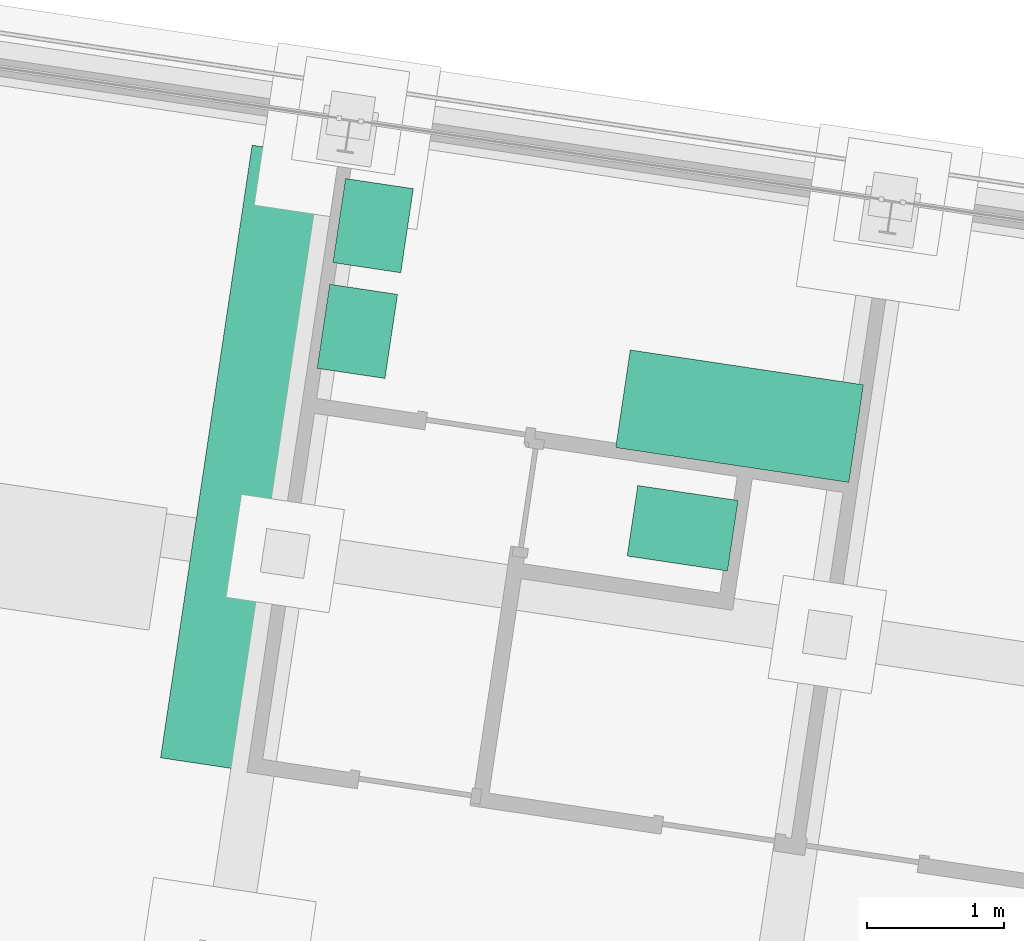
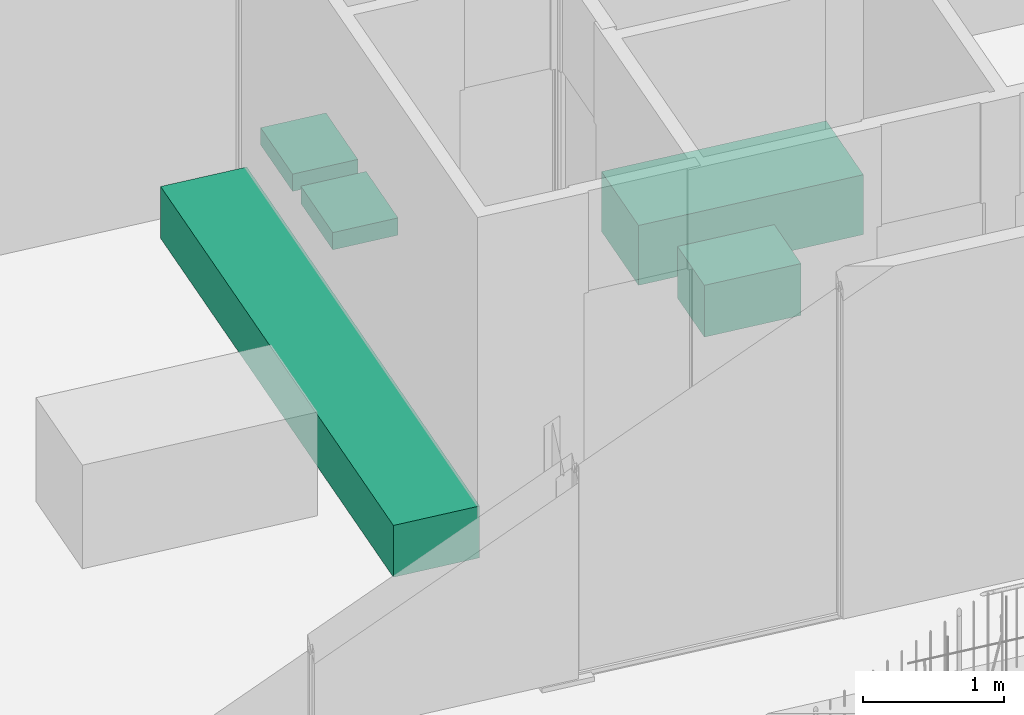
# One storey, part 140 of 142: 5 sanitary terminals.
"""IFC4 building model written with IfcOpenShell, lengths in metres."""

import ifcopenshell
import ifcopenshell.guid

model = None  # the IFC model being written
_history = None  # IfcOwnerHistory: only IFC2X3 demands one
_inside = {}  # id of a spatial element -> (the spatial element, [elements in it])
_under = {}  # id of a project, library or spatial element -> (it, [spatial elements below it])
_declared = {}  # id of a project -> (the project, [libraries it declares])
_typed = {}  # id of a type object -> (the type object, [elements of that type])
_made_of = {}  # id of a material, layer set ... -> (it, [elements and type objects made of it])


def new_model(schema):
    """Start an empty IFC model of exactly this schema.

    Asked for "IFC4X3", IfcOpenShell would pick the latest addendum, in which some entities
    have other attributes; the version numbers below select the first issue.
    IFC2X3 requires an IfcOwnerHistory on every rooted entity: one is made here for all.
    """
    global model, _history
    if schema == "IFC4X3":
        model = ifcopenshell.file(schema_version=(4, 3, 0, 0))
    else:
        model = ifcopenshell.file(schema=schema)
    _inside.clear()
    _under.clear()
    _declared.clear()
    _typed.clear()
    _made_of.clear()
    _history = None
    if model.schema == "IFC2X3":
        org = make("IfcOrganization", Name="unknown")
        user = make(
            "IfcPersonAndOrganization",
            ThePerson=make("IfcPerson", FamilyName="unknown"),
            TheOrganization=org,
        )
        app = make(
            "IfcApplication",
            ApplicationDeveloper=org,
            Version="unknown",
            ApplicationFullName="unknown",
            ApplicationIdentifier="unknown",
        )
        _history = make(
            "IfcOwnerHistory",
            OwningUser=user,
            OwningApplication=app,
            ChangeAction="ADDED",
            CreationDate=0,
        )
    return model


def make(cls, **values):
    """One entity of the class cls with the attributes given. An attribute that is None is left unset."""
    return model.create_entity(
        cls, **{name: value for name, value in values.items() if value is not None}
    )


def rooted(cls, **values):
    """An entity with a GlobalId (a new one), such as an element, a storey or a relation."""
    return make(cls, GlobalId=ifcopenshell.guid.new(), OwnerHistory=_history, **values)


def si_unit(unit_type, name, prefix=None):
    """IfcSIUnit, for example si_unit("LENGTHUNIT", "METRE", prefix="MILLI")."""
    return make("IfcSIUnit", UnitType=unit_type, Prefix=prefix, Name=name)


def assignment(units):
    """IfcUnitAssignment: the units of a project."""
    return None if units is None else make("IfcUnitAssignment", Units=units)


def point(xyz):
    """IfcCartesianPoint."""
    return None if xyz is None else make("IfcCartesianPoint", Coordinates=xyz)


def direction(xyz):
    """IfcDirection."""
    return None if xyz is None else make("IfcDirection", DirectionRatios=xyz)


def frame(location, z_axis=None, x_axis=None):
    """IfcAxis2Placement3D, a coordinate frame: its origin and axes. An axis left out is left unset."""
    return make(
        "IfcAxis2Placement3D",
        Location=point(location),
        Axis=direction(z_axis),
        RefDirection=direction(x_axis),
    )


def origin_with_axes():
    """The frame at (0, 0, 0) with the z axis (0, 0, 1) and the x axis (1, 0, 0) written out."""
    return frame((0.0, 0.0, 0.0), z_axis=(0.0, 0.0, 1.0), x_axis=(1.0, 0.0, 0.0))


def place(relative_to, where):
    """IfcLocalPlacement: puts the frame where relative to a parent placement (None: the world)."""
    return make(
        "IfcLocalPlacement", PlacementRelTo=relative_to, RelativePlacement=where
    )


def context(
    kind, dimensions, precision=None, world=None, true_north=None, identifier=None
):
    """IfcGeometricRepresentationContext, for example the 3D "Model" context."""
    return make(
        "IfcGeometricRepresentationContext",
        ContextIdentifier=identifier,
        ContextType=kind,
        CoordinateSpaceDimension=dimensions,
        Precision=precision,
        WorldCoordinateSystem=world,
        TrueNorth=true_north,
    )


def subcontext(parent, identifier, kind, view, scale=None):
    """IfcGeometricRepresentationSubContext, for example "Body" below "Model"."""
    return make(
        "IfcGeometricRepresentationSubContext",
        ContextIdentifier=identifier,
        ContextType=kind,
        ParentContext=parent,
        TargetScale=scale,
        TargetView=view,
    )


def project(units=None, contexts=None):
    """IfcProject with its units and contexts."""
    return rooted(
        "IfcProject",
        Name="project",
        RepresentationContexts=contexts,
        UnitsInContext=assignment(units),
    )


def spatial(cls, under=None, at=None, **own):
    """A site, building, storey or space (cls), placed at a placement, below another one or the project."""
    s = rooted(cls, ObjectPlacement=at, **own)
    if under is not None:
        _under.setdefault(under.id(), (under, []))[1].append(s)
    return s


def polyline(points):
    """IfcPolyline through the points."""
    return make("IfcPolyline", Points=[point(p) for p in points])


def outline(outer, holes=None, kind="AREA"):
    """IfcArbitraryClosedProfileDef: a profile drawn as a closed curve; with holes, ...WithVoids."""
    if holes is None:
        return make("IfcArbitraryClosedProfileDef", ProfileType=kind, OuterCurve=outer)
    return make(
        "IfcArbitraryProfileDefWithVoids",
        ProfileType=kind,
        OuterCurve=outer,
        InnerCurves=holes,
    )


def extrude(swept, where, along, depth):
    """IfcExtrudedAreaSolid: the profile swept, set in the frame where, extruded along a direction by depth."""
    return make(
        "IfcExtrudedAreaSolid",
        SweptArea=swept,
        Position=where,
        ExtrudedDirection=direction(along),
        Depth=depth,
    )


def shape(context_of_items, identifier, shape_type, items):
    """IfcShapeRepresentation: the items that make up one representation, for example the "Body"."""
    return make(
        "IfcShapeRepresentation",
        ContextOfItems=context_of_items,
        RepresentationIdentifier=identifier,
        RepresentationType=shape_type,
        Items=items,
    )


def material(Name=None, Category=None):
    """IfcMaterial."""
    return make("IfcMaterial", Name=Name, Category=Category)


def made_of(thing, what):
    """Note that an element or type object is made of a material, layer set ...; save() writes the relation."""
    if what is not None:
        _made_of.setdefault(what.id(), (what, []))[1].append(thing)
    return thing


def element(
    cls,
    number,
    at=None,
    inside=None,
    cuts=None,
    type_object=None,
    material=None,
    context=None,
    identifier="Body",
    shape_type=None,
    held_by="IfcProductDefinitionShape",
    body=None,
    shapes=None,
    **own,
):
    """One element of the class cls, such as IfcWall. Its Tag is "e" and its number.

    at: its placement. inside: the storey or other place that contains it. cuts: it is an
    opening in that element (IfcRelVoidsElement). A single representation is given by context,
    identifier, shape_type and body (its items); several are given by shapes. held_by: the class
    of the entity that holds the representations. save() writes the other relations.
    """
    e = rooted(cls, Tag="e%d" % number, ObjectPlacement=at, **own)
    if body is not None:
        shapes = [shape(context, identifier, shape_type, body)]
    if shapes is not None:
        e.Representation = make(held_by, Representations=shapes)
    if inside is not None:
        _inside.setdefault(inside.id(), (inside, []))[1].append(e)
    if cuts is not None:
        rooted(
            "IfcRelVoidsElement", RelatingBuildingElement=cuts, RelatedOpeningElement=e
        )
    if type_object is not None:
        _typed.setdefault(type_object.id(), (type_object, []))[1].append(e)
    return made_of(e, material)


def aggregate(whole, parts):
    """IfcRelAggregates: a whole, such as a stair, and the parts it consists of."""
    return rooted("IfcRelAggregates", RelatingObject=whole, RelatedObjects=parts)


def save(model, path):
    """Write the relations noted so far, then the file.

    IfcRelAggregates (storeys below a building ...), IfcRelContainedInSpatialStructure (elements
    in a storey), IfcRelDefinesByType, IfcRelAssociatesMaterial and IfcRelDeclares: one each for
    every whole, place, type object, material and project.
    """
    for whole, parts in _under.values():
        aggregate(whole, parts)
    for where, things in _inside.values():
        rooted(
            "IfcRelContainedInSpatialStructure",
            RelatedElements=things,
            RelatingStructure=where,
        )
    for kind, things in _typed.values():
        rooted("IfcRelDefinesByType", RelatedObjects=things, RelatingType=kind)
    for what, things in _made_of.values():
        rooted("IfcRelAssociatesMaterial", RelatedObjects=things, RelatingMaterial=what)
    for by, libraries in _declared.values():
        rooted("IfcRelDeclares", RelatingContext=by, RelatedDefinitions=libraries)
    model.write(path)


model = new_model("IFC4")

# Units and contexts
model_context = context("Model", 3, precision=1e-05, world=origin_with_axes(), true_north=direction((0.0, 1.0)))
body_context = subcontext(model_context, "Body", "Model", "MODEL_VIEW")
ifc_project = project(units=[si_unit("AREAUNIT", "SQUARE_METRE"), si_unit("VOLUMEUNIT", "CUBIC_METRE"), si_unit("LENGTHUNIT", "METRE")], contexts=[model_context])

# Site, building, storey
site_placement = place(None, origin_with_axes())
site = spatial("IfcSite", under=ifc_project, at=site_placement, Name="Lares · Rua das Mercês · artigo 4771")
building_placement = place(site_placement, frame((15.0, 9.7, 14.65), z_axis=(0.0, 0.0, 1.0), x_axis=(0.989015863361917, -0.147809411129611, 0.0)))
building = spatial("IfcBuilding", under=site, at=building_placement, Name="Casa Sobreposta")
storey_placement = place(building_placement, origin_with_axes())
storey = spatial("IfcBuildingStorey", under=building, at=storey_placement, Name="00 · Habitação e estacionamento", Elevation=14.65)

# Sanitary terminals
ifc_material = material(Name="Cerâmica sanitária — esquema", Category="ceramic")
sanitary_terminal_1_placement = place(storey_placement, origin_with_axes())
element("IfcSanitaryTerminal", 1, at=sanitary_terminal_1_placement, inside=storey, material=ifc_material, Name="Banheira", PredefinedType="BATH", context=body_context, shape_type="SweptSolid", body=[
    extrude(outline(polyline([(11.991, 4.32099999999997), (11.991, 5.041), (10.271, 5.041), (10.271, 4.32099999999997), (11.991, 4.32099999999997)])), origin_with_axes(), (0.0, 0.0, 1.0), 0.52),
])
sanitary_terminal_2_placement = place(storey_placement, frame((0.0, 0.0, 0.72), z_axis=(0.0, 0.0, 1.0), x_axis=(1.0, 0.0, 0.0)))
element("IfcSanitaryTerminal", 2, at=sanitary_terminal_2_placement, inside=storey, material=ifc_material, Name="Lavatório 1", PredefinedType="WASHHANDBASIN", context=body_context, shape_type="SweptSolid", body=[
    extrude(outline(polyline([(8.53099999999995, 4.57099999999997), (8.53099999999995, 5.19099999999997), (8.03099999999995, 5.19099999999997), (8.03099999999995, 4.57099999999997), (8.53099999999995, 4.57099999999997)])), origin_with_axes(), (0.0, 0.0, 1.0), 0.15),
])
sanitary_terminal_3_placement = place(storey_placement, frame((0.0, 0.0, 0.72), z_axis=(0.0, 0.0, 1.0), x_axis=(1.0, 0.0, 0.0)))
element("IfcSanitaryTerminal", 3, at=sanitary_terminal_3_placement, inside=storey, material=ifc_material, Name="Lavatório 2", PredefinedType="WASHHANDBASIN", context=body_context, shape_type="SweptSolid", body=[
    extrude(outline(polyline([(8.53099999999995, 5.351), (8.53099999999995, 5.971), (8.03099999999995, 5.971), (8.03099999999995, 5.351), (8.53099999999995, 5.351)])), origin_with_axes(), (0.0, 0.0, 1.0), 0.15),
])
sanitary_terminal_4_placement = place(storey_placement, origin_with_axes())
element("IfcSanitaryTerminal", 4, at=sanitary_terminal_4_placement, inside=storey, material=ifc_material, Name="Sanita", PredefinedType="TOILETPAN", context=body_context, shape_type="SweptSolid", body=[
    extrude(outline(polyline([(11.211, 3.55099999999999), (11.211, 4.07099999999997), (10.471, 4.07099999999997), (10.471, 3.55099999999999), (11.211, 3.55099999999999)])), origin_with_axes(), (0.0, 0.0, 1.0), 0.45),
])
sanitary_terminal_5_placement = place(storey_placement, origin_with_axes())
element("IfcSanitaryTerminal", 5, at=sanitary_terminal_5_placement, inside=storey, material=ifc_material, Name="Bancada de cozinha", PredefinedType="TOILETPAN", context=body_context, shape_type="SweptSolid", body=[
    extrude(outline(polyline([(7.98099999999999, 1.59100000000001), (7.98099999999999, 6.11099999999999), (7.32099999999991, 6.11099999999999), (7.32099999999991, 1.59100000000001), (7.98099999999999, 1.59100000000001)])), origin_with_axes(), (0.0, 0.0, 1.0), 0.45),
])

save(model, "model.ifc")
